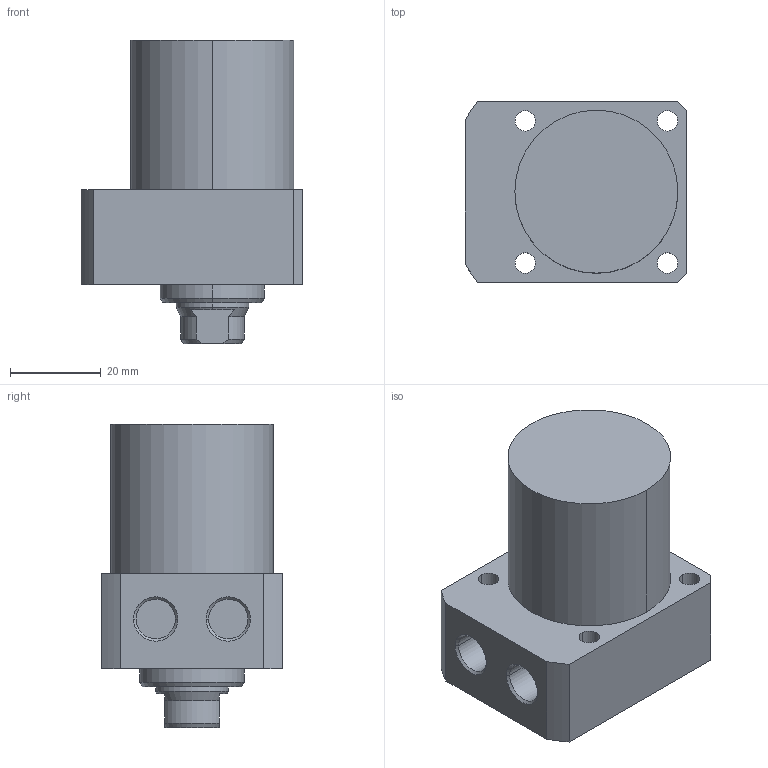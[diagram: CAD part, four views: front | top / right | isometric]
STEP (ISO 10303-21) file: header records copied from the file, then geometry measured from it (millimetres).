
FILE_DESCRIPTION((' '),'2;1');
FILE_NAME( 'TLLR-036CA-025.STEP.stp', '2025-10-24T16:35:43', (' '), ('--- Datakit www.datakit.com---'), ' Datakit CrossCadWare V2024.1 Dec 21 2023', 'Mastercam 2025', ' ');
FILE_SCHEMA(('AUTOMOTIVE_DESIGN { 1 0 10303 214 1 1 1 1 }'));
Length unit declared in the file: millimetre
Products named in the file (1): TLLR-036CA-025
Bounding box: 49 x 40 x 67 mm (x, y, z)
Volume: 74293.5 mm3; surface area: 13812 mm2
Topology: 1 solids, 1 shells, 61 faces, 172 edges, 119 vertices
Faces by surface type: cylinder 28, plane 19, cone 14
Entity records: 2092 total; most frequent: DIRECTION 384, CARTESIAN_POINT 383, ORIENTED_EDGE 340, EDGE_CURVE 170, AXIS2_PLACEMENT_3D 160, VERTEX_POINT 119, CIRCLE 98, EDGE_LOOP 77
